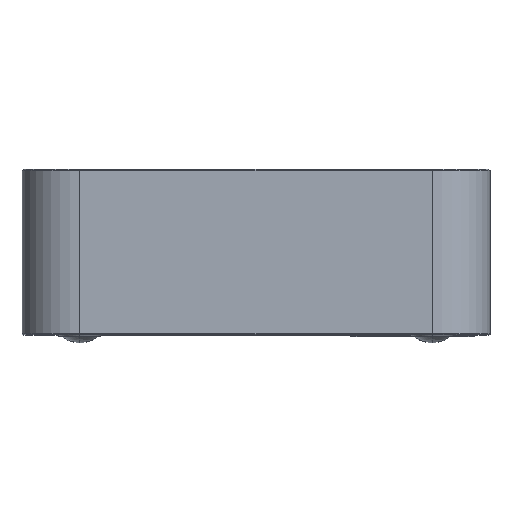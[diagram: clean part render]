
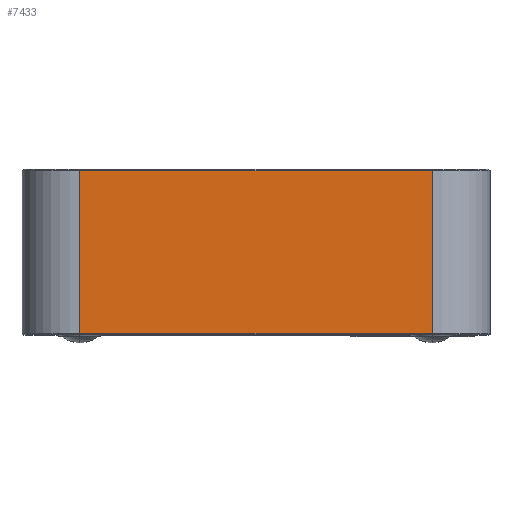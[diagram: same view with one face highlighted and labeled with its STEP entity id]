
A CAD part, top view. The second image highlights one B-rep face of the part: STEP entity #7433.
In plain terms, the highlighted planar face has unit normal (0, 0, 1).
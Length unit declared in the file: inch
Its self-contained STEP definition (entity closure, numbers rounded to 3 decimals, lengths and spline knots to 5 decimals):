
#2431=DIRECTION('',(0.,1.,0.));
#2432=VECTOR('',#2431,1.187);
#2433=CARTESIAN_POINT('',(1.279,-0.145,
1.7));
#2434=LINE('',#2433,#2432);
#2435=DIRECTION('',(1.,0.,0.));
#2436=VECTOR('',#2435,2.558);
#2437=CARTESIAN_POINT('',(-1.279,1.042,1.7));
#2438=LINE('',#2437,#2436);
#2439=DIRECTION('',(-1.,0.,0.));
#2440=VECTOR('',#2439,2.558);
#2441=CARTESIAN_POINT('',(1.279,-0.145,
1.7));
#2442=LINE('',#2441,#2440);
#2443=DIRECTION('',(0.,1.,0.));
#2444=VECTOR('',#2443,1.187);
#2445=CARTESIAN_POINT('',(-1.279,-0.145,
1.7));
#2446=LINE('',#2445,#2444);
#3610=CARTESIAN_POINT('',(1.279,-0.145,1.7));
#3612=VERTEX_POINT('',#3610);
#3615=CARTESIAN_POINT('',(-1.279,-0.145,
1.7));
#3616=VERTEX_POINT('',#3615);
#3647=CARTESIAN_POINT('',(1.279,1.042,1.7));
#3648=VERTEX_POINT('',#3647);
#3651=CARTESIAN_POINT('',(-1.279,1.042,1.7));
#3652=VERTEX_POINT('',#3651);
#7422=CARTESIAN_POINT('',(-1.279,-0.153,1.7));
#7423=DIRECTION('',(0.,0.,1.));
#7424=DIRECTION('',(1.,0.,0.));
#7425=AXIS2_PLACEMENT_3D('',#7422,#7423,#7424);
#7426=PLANE('',#7425);
#7427=ORIENTED_EDGE('',*,*,#7390,.T.);
#7428=ORIENTED_EDGE('',*,*,#7417,.F.);
#7429=ORIENTED_EDGE('',*,*,#7323,.T.);
#7430=ORIENTED_EDGE('',*,*,#7362,.T.);
#7431=EDGE_LOOP('',(#7427,#7428,#7429,#7430));
#7432=FACE_OUTER_BOUND('',#7431,.F.);
#7433=ADVANCED_FACE('',(#7432),#7426,.T.);
#7323=EDGE_CURVE('',#3612,#3616,#2442,.T.);
#7362=EDGE_CURVE('',#3616,#3652,#2446,.T.);
#7390=EDGE_CURVE('',#3652,#3648,#2438,.T.);
#7417=EDGE_CURVE('',#3612,#3648,#2434,.T.);
